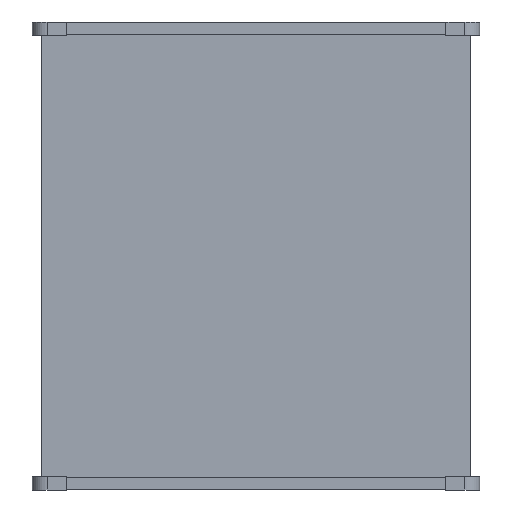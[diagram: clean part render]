
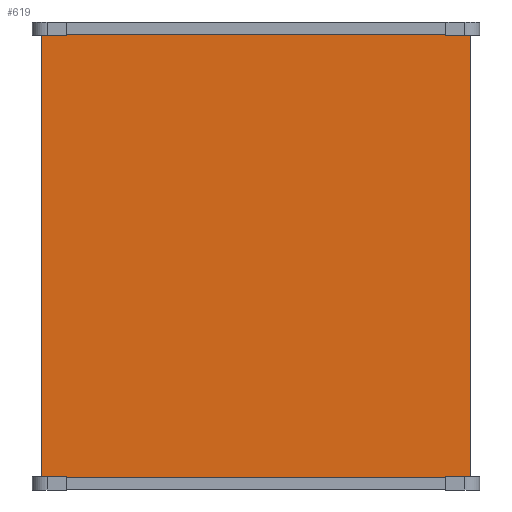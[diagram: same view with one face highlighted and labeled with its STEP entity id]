
A CAD part, front view. The second image highlights one B-rep face of the part: STEP entity #619.
In plain terms, the highlighted planar face has unit normal (0, -1, 0).
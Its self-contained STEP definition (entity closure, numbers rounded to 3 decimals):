
#619=ADVANCED_FACE('',(#1328),#1329,.F.);
#1328=FACE_OUTER_BOUND('',#2131,.T.);
#1329=PLANE('',#2132);
#2131=EDGE_LOOP('',(#4064,#4065,#4066,#4067,#4068,#4069,#4070,#4071,#4072,#4073,#4074,#4075));
#2132=AXIS2_PLACEMENT_3D('',#4076,#4077,#4078);
#4064=ORIENTED_EDGE('',*,*,#5642,.T.);
#4065=ORIENTED_EDGE('',*,*,#5615,.T.);
#4066=ORIENTED_EDGE('',*,*,#5669,.T.);
#4067=ORIENTED_EDGE('',*,*,#5670,.T.);
#4068=ORIENTED_EDGE('',*,*,#5671,.T.);
#4069=ORIENTED_EDGE('',*,*,#5672,.T.);
#4070=ORIENTED_EDGE('',*,*,#5673,.T.);
#4071=ORIENTED_EDGE('',*,*,#5674,.T.);
#4072=ORIENTED_EDGE('',*,*,#5675,.F.);
#4073=ORIENTED_EDGE('',*,*,#5676,.T.);
#4074=ORIENTED_EDGE('',*,*,#5677,.T.);
#4075=ORIENTED_EDGE('',*,*,#5666,.T.);
#4076=CARTESIAN_POINT('',(0.,-154.96,-282.5));
#4077=DIRECTION('',(0.,1.0,0.0));
#4078=DIRECTION('',(0.,0.,1.0));
#5615=EDGE_CURVE('',#6999,#7000,#7001,.T.);
#5642=EDGE_CURVE('',#7039,#6999,#7040,.T.);
#5666=EDGE_CURVE('',#7075,#7039,#7076,.T.);
#5669=EDGE_CURVE('',#7000,#7079,#7080,.T.);
#5670=EDGE_CURVE('',#7079,#7081,#7082,.T.);
#5671=EDGE_CURVE('',#7081,#7083,#7084,.T.);
#5672=EDGE_CURVE('',#7083,#7085,#7086,.T.);
#5673=EDGE_CURVE('',#7085,#7087,#7088,.T.);
#5674=EDGE_CURVE('',#7087,#7089,#7090,.T.);
#5675=EDGE_CURVE('',#7091,#7089,#7092,.T.);
#5676=EDGE_CURVE('',#7091,#7093,#7094,.T.);
#5677=EDGE_CURVE('',#7093,#7075,#7095,.T.);
#6999=VERTEX_POINT('',#8749);
#7000=VERTEX_POINT('',#8750);
#7001=LINE('',#8751,#8752);
#7039=VERTEX_POINT('',#8804);
#7040=LINE('',#8805,#8806);
#7075=VERTEX_POINT('',#8858);
#7076=LINE('',#8859,#8860);
#7079=VERTEX_POINT('',#8864);
#7080=LINE('',#8865,#8866);
#7081=VERTEX_POINT('',#8867);
#7082=LINE('',#8868,#8869);
#7083=VERTEX_POINT('',#8870);
#7084=LINE('',#8871,#8872);
#7085=VERTEX_POINT('',#8873);
#7086=LINE('',#8874,#8875);
#7087=VERTEX_POINT('',#8876);
#7088=LINE('',#8877,#8878);
#7089=VERTEX_POINT('',#8879);
#7090=LINE('',#8880,#8881);
#7091=VERTEX_POINT('',#8882);
#7092=LINE('',#8883,#8884);
#7093=VERTEX_POINT('',#8885);
#7094=LINE('',#8886,#8887);
#7095=LINE('',#8888,#8889);
#8749=CARTESIAN_POINT('',(230.0,-154.96,-549.875));
#8750=CARTESIAN_POINT('',(260.0,-154.96,-549.875));
#8751=CARTESIAN_POINT('',(125.25,-154.96,-549.875));
#8752=VECTOR('',#10479,1.0);
#8804=CARTESIAN_POINT('',(230.0,-154.96,-550.875));
#8805=CARTESIAN_POINT('',(230.0,-154.96,-420.219));
#8806=VECTOR('',#10512,1.0);
#8858=CARTESIAN_POINT('',(-230.0,-154.96,-550.875));
#8859=CARTESIAN_POINT('',(0.,-154.96,-550.875));
#8860=VECTOR('',#10530,1.0);
#8864=CARTESIAN_POINT('',(260.0,-154.96,-15.125));
#8865=CARTESIAN_POINT('',(260.0,-154.96,-282.5));
#8866=VECTOR('',#10532,1.0);
#8867=CARTESIAN_POINT('',(230.0,-154.96,-15.125));
#8868=CARTESIAN_POINT('',(125.25,-154.96,-15.125));
#8869=VECTOR('',#10533,1.0);
#8870=CARTESIAN_POINT('',(230.0,-154.96,-14.125));
#8871=CARTESIAN_POINT('',(230.0,-154.96,-144.781));
#8872=VECTOR('',#10534,1.0);
#8873=CARTESIAN_POINT('',(-230.0,-154.96,-14.125));
#8874=CARTESIAN_POINT('',(0.,-154.96,-14.125));
#8875=VECTOR('',#10535,1.0);
#8876=CARTESIAN_POINT('',(-230.0,-154.96,-15.125));
#8877=CARTESIAN_POINT('',(-230.0,-154.96,-144.781));
#8878=VECTOR('',#10536,1.0);
#8879=CARTESIAN_POINT('',(-260.0,-154.96,-15.125));
#8880=CARTESIAN_POINT('',(-125.25,-154.96,-15.125));
#8881=VECTOR('',#10537,1.0);
#8882=CARTESIAN_POINT('',(-260.0,-154.96,-549.875));
#8883=CARTESIAN_POINT('',(-260.0,-154.96,-282.5));
#8884=VECTOR('',#10538,1.0);
#8885=CARTESIAN_POINT('',(-230.0,-154.96,-549.875));
#8886=CARTESIAN_POINT('',(-125.25,-154.96,-549.875));
#8887=VECTOR('',#10539,1.0);
#8888=CARTESIAN_POINT('',(-230.0,-154.96,-420.219));
#8889=VECTOR('',#10540,1.0);
#10479=DIRECTION('',(1.0,0.,0.0));
#10512=DIRECTION('',(0.0,0.0,1.0));
#10530=DIRECTION('',(1.0,0.,0.));
#10532=DIRECTION('',(0.,0.,1.0));
#10533=DIRECTION('',(-1.0,0.,0.0));
#10534=DIRECTION('',(0.0,0.0,1.0));
#10535=DIRECTION('',(-1.0,0.,0.));
#10536=DIRECTION('',(0.,0.,-1.0));
#10537=DIRECTION('',(-1.0,0.,0.));
#10538=DIRECTION('',(0.,0.,1.0));
#10539=DIRECTION('',(1.0,0.,0.));
#10540=DIRECTION('',(0.,0.,-1.0));
